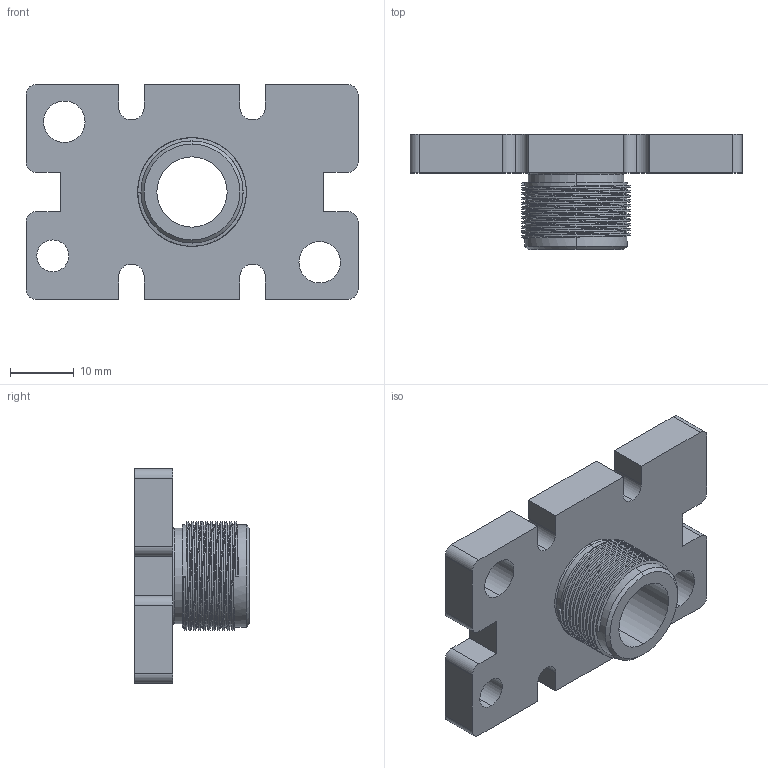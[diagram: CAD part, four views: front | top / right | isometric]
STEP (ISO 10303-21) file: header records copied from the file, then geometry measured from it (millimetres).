
FILE_DESCRIPTION (( 'STEP AP214' ), '1' );
FILE_NAME ('SMBM-25.STEP', '2019-11-06T07:57:39', ( '微软用户' ), ( '微软中国' ), 'SwSTEP 2.0', 'SolidWorks 2016', '' );
FILE_SCHEMA (( 'AUTOMOTIVE_DESIGN' ));
Length unit declared in the file: millimetre
Products named in the file (1): SMBM-25
Bounding box: 52 x 18 x 33.6 mm (x, y, z)
Volume: 9829.6 mm3; surface area: 6249.6 mm2
Topology: 1 solids, 1 shells, 85 faces, 237 edges, 156 vertices
Faces by surface type: cylinder 48, plane 30, bspline 5, cone 2
Entity records: 4397 total; most frequent: CARTESIAN_POINT 2284, ORIENTED_EDGE 474, DIRECTION 402, EDGE_CURVE 237, VERTEX_POINT 156, AXIS2_PLACEMENT_3D 136, VECTOR 130, LINE 130
